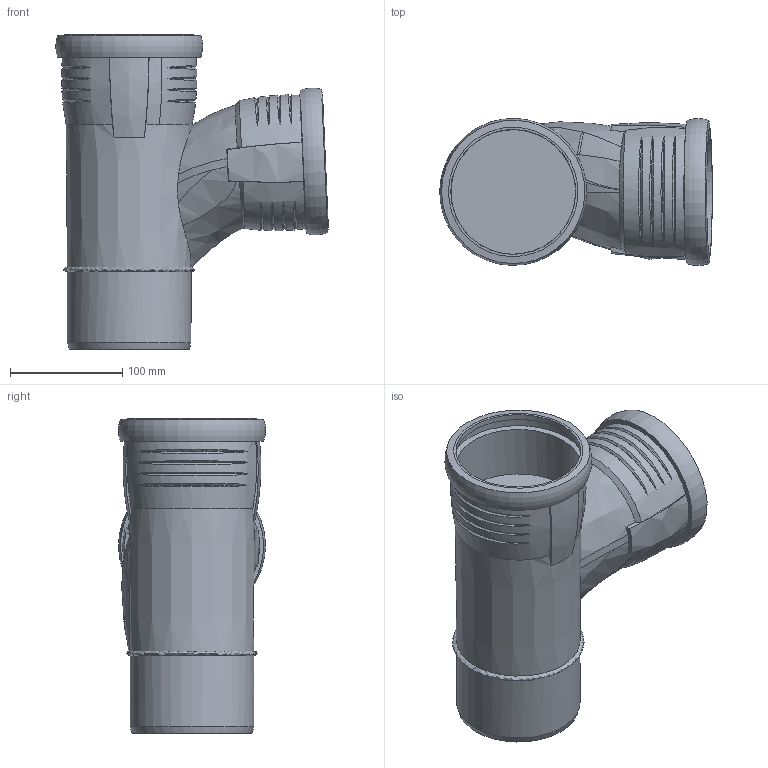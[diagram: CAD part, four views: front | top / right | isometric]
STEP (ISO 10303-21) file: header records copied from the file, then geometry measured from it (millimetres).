
FILE_DESCRIPTION(/* description */ (''),/* implementation_level */ '2;1');
FILE_NAME(/* name */ 'C:\Planerdaten\Export PLA\393.540.14.1\stp\393540.stp',/* time_stamp */ '2022-09-16T14:46:56+02:00',/* author */ ('JANAN'),/* organization */ (''),/* preprocessor_version */ 'ST-DEVELOPER v18.1',/* originating_system */ 'Autodesk Inventor 2021',/* authorisation */ '');
FILE_SCHEMA (('AUTOMOTIVE_DESIGN { 1 0 10303 214 3 1 1 }'));
Length unit declared in the file: millimetre
Products named in the file (1): tmpAA58.tmp
Bounding box: 242.83 x 130.96 x 280 mm (x, y, z)
Volume: 2439134.7 mm3; surface area: 263015.5 mm2
Topology: 2 solids, 2 shells, 111 faces, 277 edges, 188 vertices
Faces by surface type: bspline 76, cone 16, plane 9, cylinder 8, torus 2
Full cylindrical faces by diameter (mm): 101.2 x1, 110.2 x1, 111 x2, 111.3 x2, 121.5 x2
Entity records: 16486 total; most frequent: CARTESIAN_POINT 14099, ORIENTED_EDGE 562, DIRECTION 306, EDGE_CURVE 281, VERTEX_POINT 192, B_SPLINE_CURVE_WITH_KNOTS 149, AXIS2_PLACEMENT_3D 138, EDGE_LOOP 131
